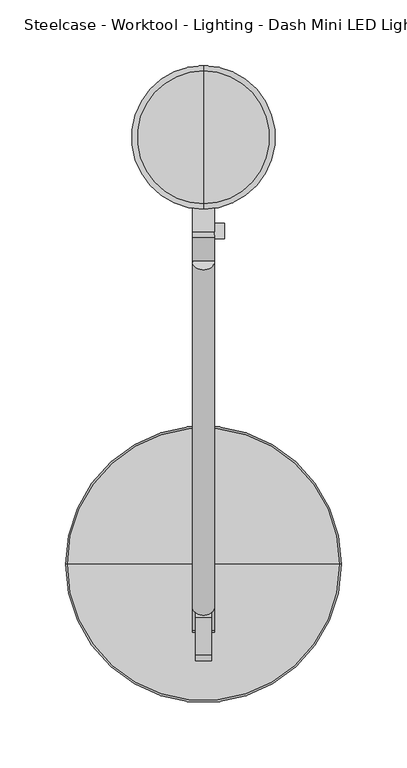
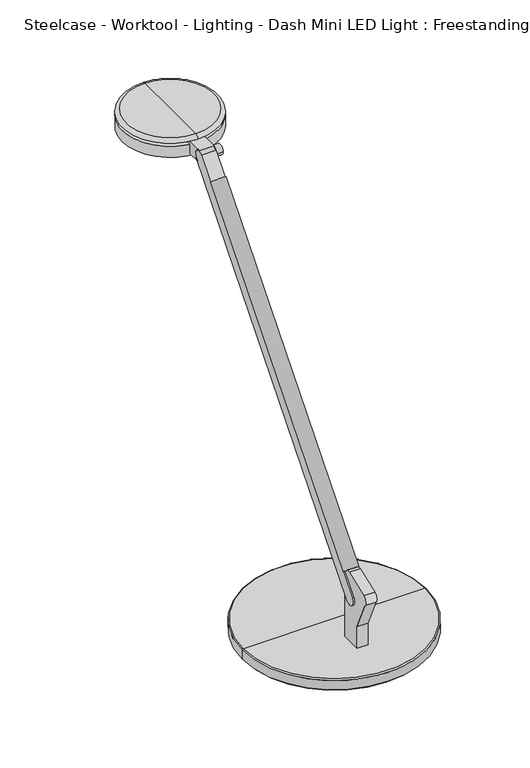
"""IFC4 building model written with IfcOpenShell, lengths in millimetres: furniture geometry, Steelcase - Worktool - Lighting - Dash Mini LED Light : Freestanding."""

import ifcopenshell
import ifcopenshell.guid

model = None  # the IFC model being written
_history = None  # IfcOwnerHistory: only IFC2X3 demands one
_inside = {}  # id of a spatial element -> (the spatial element, [elements in it])
_under = {}  # id of a project, library or spatial element -> (it, [spatial elements below it])
_declared = {}  # id of a project -> (the project, [libraries it declares])
_typed = {}  # id of a type object -> (the type object, [elements of that type])
_made_of = {}  # id of a material, layer set ... -> (it, [elements and type objects made of it])


def new_model(schema):
    """Start an empty IFC model of exactly this schema.

    Asked for "IFC4X3", IfcOpenShell would pick the latest addendum, in which some entities
    have other attributes; the version numbers below select the first issue.
    IFC2X3 requires an IfcOwnerHistory on every rooted entity: one is made here for all.
    """
    global model, _history
    if schema == "IFC4X3":
        model = ifcopenshell.file(schema_version=(4, 3, 0, 0))
    else:
        model = ifcopenshell.file(schema=schema)
    _inside.clear()
    _under.clear()
    _declared.clear()
    _typed.clear()
    _made_of.clear()
    _history = None
    if model.schema == "IFC2X3":
        org = make("IfcOrganization", Name="unknown")
        user = make(
            "IfcPersonAndOrganization",
            ThePerson=make("IfcPerson", FamilyName="unknown"),
            TheOrganization=org,
        )
        app = make(
            "IfcApplication",
            ApplicationDeveloper=org,
            Version="unknown",
            ApplicationFullName="unknown",
            ApplicationIdentifier="unknown",
        )
        _history = make(
            "IfcOwnerHistory",
            OwningUser=user,
            OwningApplication=app,
            ChangeAction="ADDED",
            CreationDate=0,
        )
    return model


def make(cls, **values):
    """One entity of the class cls with the attributes given. An attribute that is None is left unset."""
    return model.create_entity(
        cls, **{name: value for name, value in values.items() if value is not None}
    )


def rooted(cls, **values):
    """An entity with a GlobalId (a new one), such as an element, a storey or a relation."""
    return make(cls, GlobalId=ifcopenshell.guid.new(), OwnerHistory=_history, **values)


def si_unit(unit_type, name, prefix=None):
    """IfcSIUnit, for example si_unit("LENGTHUNIT", "METRE", prefix="MILLI")."""
    return make("IfcSIUnit", UnitType=unit_type, Prefix=prefix, Name=name)


def assignment(units):
    """IfcUnitAssignment: the units of a project."""
    return None if units is None else make("IfcUnitAssignment", Units=units)


def point(xyz):
    """IfcCartesianPoint."""
    return None if xyz is None else make("IfcCartesianPoint", Coordinates=xyz)


def direction(xyz):
    """IfcDirection."""
    return None if xyz is None else make("IfcDirection", DirectionRatios=xyz)


def frame(location, z_axis=None, x_axis=None):
    """IfcAxis2Placement3D, a coordinate frame: its origin and axes. An axis left out is left unset."""
    return make(
        "IfcAxis2Placement3D",
        Location=point(location),
        Axis=direction(z_axis),
        RefDirection=direction(x_axis),
    )


def frame_2d(location, x_axis=None):
    """IfcAxis2Placement2D, a coordinate frame in the plane: its origin and x axis."""
    return make(
        "IfcAxis2Placement2D", Location=point(location), RefDirection=direction(x_axis)
    )


def origin():
    """The frame at (0, 0, 0) with its axes left unset."""
    return frame((0.0, 0.0, 0.0))


def place(relative_to, where):
    """IfcLocalPlacement: puts the frame where relative to a parent placement (None: the world)."""
    return make(
        "IfcLocalPlacement", PlacementRelTo=relative_to, RelativePlacement=where
    )


def context(
    kind, dimensions, precision=None, world=None, true_north=None, identifier=None
):
    """IfcGeometricRepresentationContext, for example the 3D "Model" context."""
    return make(
        "IfcGeometricRepresentationContext",
        ContextIdentifier=identifier,
        ContextType=kind,
        CoordinateSpaceDimension=dimensions,
        Precision=precision,
        WorldCoordinateSystem=world,
        TrueNorth=true_north,
    )


def project(units=None, contexts=None):
    """IfcProject with its units and contexts."""
    return rooted(
        "IfcProject",
        Name="project",
        RepresentationContexts=contexts,
        UnitsInContext=assignment(units),
    )


def spatial(cls, under=None, at=None, **own):
    """A site, building, storey or space (cls), placed at a placement, below another one or the project."""
    s = rooted(cls, ObjectPlacement=at, **own)
    if under is not None:
        _under.setdefault(under.id(), (under, []))[1].append(s)
    return s


def polyline(points):
    """IfcPolyline through the points."""
    return make("IfcPolyline", Points=[point(p) for p in points])


def circle_curve(where, radius):
    """IfcCircle in the frame where."""
    return make("IfcCircle", Position=where, Radius=radius)


def ellipse_curve(where, semi_axis1, semi_axis2):
    """IfcEllipse in the frame where."""
    return make(
        "IfcEllipse", Position=where, SemiAxis1=semi_axis1, SemiAxis2=semi_axis2
    )


def trimmed(basis, trim1, trim2, sense, master):
    """IfcTrimmedCurve: the piece of a basis curve between two trims."""
    return make(
        "IfcTrimmedCurve",
        BasisCurve=basis,
        Trim1=trim1,
        Trim2=trim2,
        SenseAgreement=sense,
        MasterRepresentation=master,
    )


def segment(curve, same_sense, transition):
    """IfcCompositeCurveSegment."""
    return make(
        "IfcCompositeCurveSegment",
        Transition=transition,
        SameSense=same_sense,
        ParentCurve=curve,
    )


def composite_curve(segments, self_intersect=None):
    """IfcCompositeCurve: segments joined end to end."""
    return make("IfcCompositeCurve", Segments=segments, SelfIntersect=self_intersect)


def outline(outer, holes=None, kind="AREA"):
    """IfcArbitraryClosedProfileDef: a profile drawn as a closed curve; with holes, ...WithVoids."""
    if holes is None:
        return make("IfcArbitraryClosedProfileDef", ProfileType=kind, OuterCurve=outer)
    return make(
        "IfcArbitraryProfileDefWithVoids",
        ProfileType=kind,
        OuterCurve=outer,
        InnerCurves=holes,
    )


def extrude(swept, where, along, depth):
    """IfcExtrudedAreaSolid: the profile swept, set in the frame where, extruded along a direction by depth."""
    return make(
        "IfcExtrudedAreaSolid",
        SweptArea=swept,
        Position=where,
        ExtrudedDirection=direction(along),
        Depth=depth,
    )


def shape(context_of_items, identifier, shape_type, items):
    """IfcShapeRepresentation: the items that make up one representation, for example the "Body"."""
    return make(
        "IfcShapeRepresentation",
        ContextOfItems=context_of_items,
        RepresentationIdentifier=identifier,
        RepresentationType=shape_type,
        Items=items,
    )


def source(mapping_origin, context_of_items, identifier, shape_type, items):
    """IfcRepresentationMap: a shape defined once, which mapped items show again and again."""
    return make(
        "IfcRepresentationMap",
        MappingOrigin=mapping_origin,
        MappedRepresentation=shape(context_of_items, identifier, shape_type, items),
    )


def transform(
    local_origin,
    x_axis=None,
    y_axis=None,
    z_axis=None,
    scale=None,
    scale2=None,
    scale3=None,
    uniform=True,
):
    """IfcCartesianTransformationOperator3D, or its non-uniform kind. x_axis, y_axis, z_axis: its Axis1, 2, 3."""
    if uniform:
        return make(
            "IfcCartesianTransformationOperator3D",
            Axis1=direction(x_axis),
            Axis2=direction(y_axis),
            LocalOrigin=point(local_origin),
            Scale=scale,
            Axis3=direction(z_axis),
        )
    return make(
        "IfcCartesianTransformationOperator3DnonUniform",
        Axis1=direction(x_axis),
        Axis2=direction(y_axis),
        LocalOrigin=point(local_origin),
        Scale=scale,
        Axis3=direction(z_axis),
        Scale2=scale2,
        Scale3=scale3,
    )


def mapped(mapping_source, mapping_target):
    """IfcMappedItem: shows the shape of a source again, moved by a transform."""
    return make(
        "IfcMappedItem", MappingSource=mapping_source, MappingTarget=mapping_target
    )


def made_of(thing, what):
    """Note that an element or type object is made of a material, layer set ...; save() writes the relation."""
    if what is not None:
        _made_of.setdefault(what.id(), (what, []))[1].append(thing)
    return thing


def element(
    cls,
    number,
    at=None,
    inside=None,
    cuts=None,
    type_object=None,
    material=None,
    context=None,
    identifier="Body",
    shape_type=None,
    held_by="IfcProductDefinitionShape",
    body=None,
    shapes=None,
    **own,
):
    """One element of the class cls, such as IfcWall. Its Tag is "e" and its number.

    at: its placement. inside: the storey or other place that contains it. cuts: it is an
    opening in that element (IfcRelVoidsElement). A single representation is given by context,
    identifier, shape_type and body (its items); several are given by shapes. held_by: the class
    of the entity that holds the representations. save() writes the other relations.
    """
    e = rooted(cls, Tag="e%d" % number, ObjectPlacement=at, **own)
    if body is not None:
        shapes = [shape(context, identifier, shape_type, body)]
    if shapes is not None:
        e.Representation = make(held_by, Representations=shapes)
    if inside is not None:
        _inside.setdefault(inside.id(), (inside, []))[1].append(e)
    if cuts is not None:
        rooted(
            "IfcRelVoidsElement", RelatingBuildingElement=cuts, RelatedOpeningElement=e
        )
    if type_object is not None:
        _typed.setdefault(type_object.id(), (type_object, []))[1].append(e)
    return made_of(e, material)


def aggregate(whole, parts):
    """IfcRelAggregates: a whole, such as a stair, and the parts it consists of."""
    return rooted("IfcRelAggregates", RelatingObject=whole, RelatedObjects=parts)


def save(model, path):
    """Write the relations noted so far, then the file.

    IfcRelAggregates (storeys below a building ...), IfcRelContainedInSpatialStructure (elements
    in a storey), IfcRelDefinesByType, IfcRelAssociatesMaterial and IfcRelDeclares: one each for
    every whole, place, type object, material and project.
    """
    for whole, parts in _under.values():
        aggregate(whole, parts)
    for where, things in _inside.values():
        rooted(
            "IfcRelContainedInSpatialStructure",
            RelatedElements=things,
            RelatingStructure=where,
        )
    for kind, things in _typed.values():
        rooted("IfcRelDefinesByType", RelatedObjects=things, RelatingType=kind)
    for what, things in _made_of.values():
        rooted("IfcRelAssociatesMaterial", RelatedObjects=things, RelatingMaterial=what)
    for by, libraries in _declared.values():
        rooted("IfcRelDeclares", RelatingContext=by, RelatedDefinitions=libraries)
    model.write(path)


def plane_surface(at):
    """IfcPlane: the flat surface through the origin of the frame at, square to its z axis."""
    return make("IfcPlane", Position=at)


def cylinder_surface(at, radius):
    """IfcCylindricalSurface: all points at the distance radius from the z axis of the frame at."""
    return make("IfcCylindricalSurface", Position=at, Radius=radius)


def revolved_surface(curve, axis_point, axis_direction):
    """IfcSurfaceOfRevolution: the curve turned about the line through axis_point along axis_direction."""
    return make(
        "IfcSurfaceOfRevolution",
        SweptCurve=make("IfcArbitraryOpenProfileDef", ProfileType="CURVE", Curve=curve),
        AxisPosition=make("IfcAxis1Placement", Location=point(axis_point), Axis=direction(axis_direction)),
    )


def advanced_brep(points, edges, surfaces, faces):
    """IfcAdvancedBrep: a solid bounded by faces that lie on surfaces and meet in shared edges.

    An edge is (start, end): straight between two places in points (the first is 0);
    or (start, end, curve); or (start, end, curve, False) where it runs against its curve.
    A face is (place in surfaces, loops), or (place, loops, False) where it looks against
    its surface's normal. A loop lists edges by number (the first is 1), with a minus sign
    where the edge is run from its end to its start. The first loop is the outer one.
    """
    corners = [point(p) for p in points]
    vertices = [make("IfcVertexPoint", VertexGeometry=c) for c in corners]
    made = []
    for start, end, *more in edges:
        made.append(
            make(
                "IfcEdgeCurve",
                EdgeStart=vertices[start],
                EdgeEnd=vertices[end],
                EdgeGeometry=more[0] if more else make("IfcPolyline", Points=[corners[start], corners[end]]),
                SameSense=more[1] if len(more) > 1 else True,
            )
        )
    hull = []
    for where, loops, *sense in faces:
        bounds = []
        for j, loop in enumerate(loops):
            ring = [make("IfcOrientedEdge", EdgeElement=made[abs(k) - 1], Orientation=k > 0) for k in loop]
            bounds.append(
                make(
                    "IfcFaceOuterBound" if j == 0 else "IfcFaceBound",
                    Bound=make("IfcEdgeLoop", EdgeList=ring),
                    Orientation=True,
                )
            )
        hull.append(make("IfcAdvancedFace", Bounds=bounds, FaceSurface=surfaces[where], SameSense=sense[0] if sense else True))
    return make("IfcAdvancedBrep", Outer=make("IfcClosedShell", CfsFaces=hull))


def steelcase_worktool_lighting_dash_mini_led_light_freestanding_8dce2720(model_context):
    return source(origin(), model_context, "Body", "SolidModel", [
        extrude(outline(composite_curve([segment(trimmed(circle_curve(frame_2d((0.0, 161.2861314)), 8.509), [point((8.509, 161.2861314))], [point((-8.509, 161.2861314))], False, "CARTESIAN"), True, "CONTINUOUS"), segment(polyline([(-8.509, 161.2861314), (8.509, 161.2861314)]), True, "CONTINUOUS")], self_intersect=False)), frame((0.0, -59.9275977, 934.0367561), z_axis=(0.0, 0.6453157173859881, 0.7639159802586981), x_axis=(1.0, 0.0, 0.0)), (0.0, 0.0, 1.0), 407.9752226),
        extrude(outline(composite_curve([segment(polyline([(1165.3599936, 383.6426805), (1165.3599936, 349.1496158)]), True, "CONTINUOUS"), segment(trimmed(circle_curve(frame_2d((1158.6105852, 349.1496158)), 6.7494084), [point((1165.3599936, 349.1496158))], [point((1154.3820582, 354.4102311))], True, "CARTESIAN"), True, "CONTINUOUS"), segment(polyline([(1154.3820582, 354.4102311), (1151.5508717, 352.0202702), (1151.5508717, 366.3659959), (1162.4056, 366.3659959), (1162.4056, 381.1636499), (1165.3599936, 383.6426805)]), True, "CONTINUOUS")], self_intersect=False)), frame((8.509, 0.0, 0.0), z_axis=(-1.0, 0.0, 0.0), x_axis=(0.0, 0.0, 1.0)), (0.0, 0.0, 1.0), 17.018),
        extrude(outline(composite_curve([segment(trimmed(circle_curve(frame_2d((349.5772033, 1158.8861373)), 5.8982953), [point((343.678908, 1158.8861373))], [point((355.4754986, 1158.8861373))], False, "CARTESIAN"), True, "CONTINUOUS"), segment(trimmed(circle_curve(frame_2d((349.5772033, 1158.8861373)), 5.8982953), [point((355.4754986, 1158.8861373))], [point((343.678908, 1158.8861373))], False, "CARTESIAN"), True, "CONTINUOUS")], self_intersect=False)), frame((8.509, 0.0, 0.0), z_axis=(1.0, 0.0, 0.0), x_axis=(0.0, 1.0, 0.0)), (0.0, 0.0, 1.0), 7.5184),
        extrude(outline(composite_curve([segment(polyline([(63.6335559, 826.008), (63.6335559, 750.951), (39.5289559, 750.951), (39.5289559, 777.008319), (24.0322898, 811.8144009)]), True, "CONTINUOUS"), segment(trimmed(circle_curve(frame_2d((28.6602337, 816.3670075)), 6.491848), [point((24.0322898, 811.8144009))], [point((26.3337634, 822.4276697))], False, "CARTESIAN"), True, "CONTINUOUS"), segment(polyline([(26.3337634, 822.4276697), (54.9477675, 833.4115568)]), True, "CONTINUOUS"), segment(trimmed(circle_curve(frame_2d((57.2760289, 827.3462287)), 6.4968459), [point((54.9477675, 833.4115568))], [point((63.6335559, 826.008))], False, "CARTESIAN"), True, "CONTINUOUS")], self_intersect=False)), frame((-6.223, 0.0, 0.0), z_axis=(1.0, 0.0, 0.0), x_axis=(0.0, 1.0, 0.0)), (0.0, 0.0, 1.0), 12.446),
        advanced_brep(
        [(0.0, 95.563788, 750.9476331), (-103.8479, 95.563788, 750.9476331), (103.8479, 95.563788, 750.9476331), (-93.0792702, 95.563788, 731.9816908), (0.0, 95.563788, 731.9816908), (93.0792702, 95.563788, 731.9816908), (-93.0792702, 95.563788, 732.8852565), (93.0792702, 95.563788, 732.8852565), (-95.8939876, 95.563788, 732.8852565), (95.8939876, 95.563788, 732.8852565), (-102.4300117, 95.563788, 735.7952819), (102.4300117, 95.563788, 735.7952819), (-102.4300117, 95.563788, 738.6286331), (102.4300117, 95.563788, 738.6286331), (-105.3308643, 95.563788, 738.6286331), (105.3308643, 95.563788, 738.6286331), (-105.3308643, 95.563788, 749.4646687), (105.3308643, 95.563788, 749.4646687)],
        [
            (0, 1),
            (1, 2, circle_curve(frame((0.0, 95.563788, 750.9476331), z_axis=(0.0, 0.0, 1.0), x_axis=(1.0, 0.0, 0.0)), 103.8479)),
            (2, 0),
            (2, 1, circle_curve(frame((0.0, 95.563788, 750.9476331), z_axis=(0.0, 0.0, 1.0), x_axis=(1.0, 0.0, 0.0)), 103.8479)),
            (3, 4),
            (4, 5),
            (5, 3, circle_curve(frame((0.0, 95.563788, 731.9816908), z_axis=(0.0, 0.0, -1.0), x_axis=(1.0, 0.0, 0.0)), 93.0792702)),
            (3, 5, circle_curve(frame((0.0, 95.563788, 731.9816908), z_axis=(0.0, 0.0, -1.0), x_axis=(1.0, 0.0, 0.0)), 93.0792702)),
            (6, 3),
            (5, 7),
            (7, 6, circle_curve(frame((0.0, 95.563788, 732.8852565), z_axis=(0.0, 0.0, -1.0), x_axis=(1.0, 0.0, 0.0)), 93.0792702)),
            (6, 7, circle_curve(frame((0.0, 95.563788, 732.8852565), z_axis=(0.0, 0.0, -1.0), x_axis=(1.0, 0.0, 0.0)), 93.0792702)),
            (8, 6),
            (7, 9),
            (9, 8, circle_curve(frame((0.0, 95.563788, 732.8852565), z_axis=(0.0, 0.0, -1.0), x_axis=(1.0, 0.0, 0.0)), 95.8939876)),
            (8, 9, circle_curve(frame((0.0, 95.563788, 732.8852565), z_axis=(0.0, 0.0, -1.0), x_axis=(1.0, 0.0, 0.0)), 95.8939876)),
            (10, 8),
            (9, 11),
            (11, 10, circle_curve(frame((0.0, 95.563788, 735.7952819), z_axis=(0.0, 0.0, -1.0), x_axis=(1.0, 0.0, 0.0)), 102.4300117)),
            (10, 11, circle_curve(frame((0.0, 95.563788, 735.7952819), z_axis=(0.0, 0.0, -1.0), x_axis=(1.0, 0.0, 0.0)), 102.4300117)),
            (12, 10),
            (11, 13),
            (13, 12, circle_curve(frame((0.0, 95.563788, 738.6286331), z_axis=(0.0, 0.0, -1.0), x_axis=(1.0, 0.0, 0.0)), 102.4300117)),
            (12, 13, circle_curve(frame((0.0, 95.563788, 738.6286331), z_axis=(0.0, 0.0, -1.0), x_axis=(1.0, 0.0, 0.0)), 102.4300117)),
            (14, 12),
            (13, 15),
            (15, 14, circle_curve(frame((0.0, 95.563788, 738.6286331), z_axis=(0.0, 0.0, -1.0), x_axis=(1.0, 0.0, 0.0)), 105.3308643)),
            (14, 15, circle_curve(frame((0.0, 95.563788, 738.6286331), z_axis=(0.0, 0.0, -1.0), x_axis=(1.0, 0.0, 0.0)), 105.3308643)),
            (16, 14),
            (15, 17),
            (17, 16, circle_curve(frame((0.0, 95.563788, 749.4646687), z_axis=(0.0, 0.0, -1.0), x_axis=(1.0, 0.0, 0.0)), 105.3308643)),
            (16, 17, circle_curve(frame((0.0, 95.563788, 749.4646687), z_axis=(0.0, 0.0, -1.0), x_axis=(1.0, 0.0, 0.0)), 105.3308643)),
            (1, 16, circle_curve(frame((-103.8479, 95.563788, 749.4646687), z_axis=(0.0, -1.0, 0.0), x_axis=(-1.0, 0.0, 0.0)), 1.4829643)),
            (17, 2, circle_curve(frame((103.8479, 95.563788, 749.4646687), z_axis=(0.0, -1.0, 0.0), x_axis=(1.0, 0.0, 0.0)), 1.4829643)),
        ],
        [
            plane_surface(frame((0.0, 95.563788, 750.9476331), z_axis=(0.0, 0.0, 1.0), x_axis=(1.0, 0.0, 0.0))),
            plane_surface(frame((0.0, 95.563788, 731.9816908), z_axis=(0.0, 0.0, -1.0), x_axis=(1.0, 0.0, 0.0))),
            cylinder_surface(frame((0.0, 95.563788, 757.2976331), z_axis=(0.0, 0.0, 1.0), x_axis=(1.0, 0.0, 0.0)), 93.0792702),
            plane_surface(frame((0.0, 95.563788, 732.8852565), z_axis=(0.0, 0.0, -1.0), x_axis=(1.0, 0.0, 0.0))),
            revolved_surface(polyline([(95.8939876, 95.563788, 732.8852565), (102.4300117, 95.563788, 735.7952819)]), (0.0, 95.563788, 757.2976331), (0.0, 0.0, 1.0)),
            cylinder_surface(frame((0.0, 95.563788, 757.2976331), z_axis=(0.0, 0.0, 1.0), x_axis=(1.0, 0.0, 0.0)), 102.4300117),
            plane_surface(frame((0.0, 95.563788, 738.6286331), z_axis=(0.0, 0.0, -1.0), x_axis=(1.0, 0.0, 0.0))),
            cylinder_surface(frame((0.0, 95.563788, 757.2976331), z_axis=(0.0, 0.0, 1.0), x_axis=(1.0, 0.0, 0.0)), 105.3308643),
            revolved_surface(trimmed(ellipse_curve(frame((103.8479, 95.563788, 749.4646687), z_axis=(0.0, -1.0, 0.0), x_axis=(1.0, 0.0, 0.0)), 1.4829643, 1.4829643), [point((105.3308643, 95.563788, 749.4646687))], [point((103.8479, 95.563788, 750.9476331))], True, "CARTESIAN"), (0.0, 95.563788, 757.2976331), (0.0, 0.0, 1.0)),
        ],
        [
            (0, [[1, 2, 3]]),
            (0, [[-3, 4, -1]]),
            (1, [[5, 6, 7]]),
            (1, [[-6, -5, 8]]),
            (2, [[9, -7, 10, 11]]),
            (2, [[-10, -8, -9, 12]]),
            (3, [[13, -11, 14, 15]]),
            (3, [[-14, -12, -13, 16]]),
            (4, [[17, -15, 18, 19]]),
            (4, [[-18, -16, -17, 20]]),
            (5, [[21, -19, 22, 23]]),
            (5, [[-22, -20, -21, 24]]),
            (6, [[25, -23, 26, 27]]),
            (6, [[-26, -24, -25, 28]]),
            (7, [[29, -27, 30, 31]]),
            (7, [[-30, -28, -29, 32]]),
            (8, [[33, -31, 34, -2]]),
            (8, [[-34, -32, -33, -4]]),
        ],
    ),
        advanced_brep(
        [(0.0, 366.3659959, 1166.2156), (0.0, 370.4220506, 1170.0256), (0.0, 471.7839412, 1170.0256), (0.0, 475.8399959, 1166.2156), (0.0, 384.354515, 1166.2156), (0.0, 457.8514768, 1166.2156), (0.0, 381.6867242, 1162.4056), (0.0, 460.5192676, 1162.4056), (0.0, 366.3659959, 1162.4056), (0.0, 475.8399959, 1162.4056), (0.0, 366.3659959, 1149.0706), (0.0, 475.8399959, 1149.0706), (0.0, 421.1029959, 1149.0706), (0.0, 421.1029959, 1170.0256)],
        [
            (0, 1, circle_curve(frame((0.0, 370.4220506, 1165.9616), z_axis=(-1.0, 0.0, 0.0), x_axis=(0.0, -1.0, 0.0)), 4.064)),
            (1, 2, circle_curve(frame((0.0, 421.1029959, 1170.0256), z_axis=(0.0, 0.0, -1.0), x_axis=(0.0, 1.0, 0.0)), 50.6809453)),
            (2, 3, circle_curve(frame((0.0, 471.7839412, 1165.9616), z_axis=(-1.0, 0.0, 0.0), x_axis=(0.0, 1.0, 0.0)), 4.064)),
            (3, 0, circle_curve(frame((0.0, 421.1029959, 1166.2156), z_axis=(0.0, 0.0, 1.0), x_axis=(0.0, 1.0, 0.0)), 54.737)),
            (2, 1, circle_curve(frame((0.0, 421.1029959, 1170.0256), z_axis=(0.0, 0.0, -1.0), x_axis=(0.0, 1.0, 0.0)), 50.6809453)),
            (0, 3, circle_curve(frame((0.0, 421.1029959, 1166.2156), z_axis=(0.0, 0.0, 1.0), x_axis=(0.0, 1.0, 0.0)), 54.737)),
            (4, 0),
            (3, 5),
            (5, 4, circle_curve(frame((0.0, 421.1029959, 1166.2156), z_axis=(0.0, 0.0, 1.0), x_axis=(0.0, 1.0, 0.0)), 36.7484809)),
            (4, 5, circle_curve(frame((0.0, 421.1029959, 1166.2156), z_axis=(0.0, 0.0, 1.0), x_axis=(0.0, 1.0, 0.0)), 36.7484809)),
            (6, 4),
            (5, 7),
            (7, 6, circle_curve(frame((0.0, 421.1029959, 1162.4056), z_axis=(0.0, 0.0, 1.0), x_axis=(0.0, 1.0, 0.0)), 39.4162717)),
            (6, 7, circle_curve(frame((0.0, 421.1029959, 1162.4056), z_axis=(0.0, 0.0, 1.0), x_axis=(0.0, 1.0, 0.0)), 39.4162717)),
            (8, 6),
            (7, 9),
            (9, 8, circle_curve(frame((0.0, 421.1029959, 1162.4056), z_axis=(0.0, 0.0, 1.0), x_axis=(0.0, 1.0, 0.0)), 54.737)),
            (8, 9, circle_curve(frame((0.0, 421.1029959, 1162.4056), z_axis=(0.0, 0.0, 1.0), x_axis=(0.0, 1.0, 0.0)), 54.737)),
            (10, 8),
            (9, 11),
            (11, 10, circle_curve(frame((0.0, 421.1029959, 1149.0706), z_axis=(0.0, 0.0, 1.0), x_axis=(0.0, 1.0, 0.0)), 54.737)),
            (10, 11, circle_curve(frame((0.0, 421.1029959, 1149.0706), z_axis=(0.0, 0.0, 1.0), x_axis=(0.0, 1.0, 0.0)), 54.737)),
            (12, 10),
            (11, 12),
            (1, 13),
            (13, 2),
        ],
        [
            revolved_surface(trimmed(ellipse_curve(frame((0.0, 471.7839412, 1165.9616), z_axis=(-1.0, 0.0, 0.0), x_axis=(0.0, 1.0, 0.0)), 4.064, 4.064), [point((0.0, 471.7839412, 1170.0256))], [point((0.0, 475.8399959, 1166.2156))], True, "CARTESIAN"), (0.0, 421.1029959, 1170.0256), (0.0, 0.0, -1.0)),
            plane_surface(frame((0.0, 421.1029959, 1166.2156), z_axis=(0.0, 0.0, -1.0), x_axis=(0.0, 1.0, 0.0))),
            revolved_surface(polyline([(0.0, 457.8514768, 1166.2156), (0.0, 460.5192676, 1162.4056)]), (0.0, 421.1029959, 1170.0256), (0.0, 0.0, -1.0)),
            plane_surface(frame((0.0, 421.1029959, 1162.4056), z_axis=(0.0, 0.0, 1.0), x_axis=(0.0, 1.0, 0.0))),
            cylinder_surface(frame((0.0, 421.1029959, 1170.0256), z_axis=(0.0, 0.0, -1.0), x_axis=(0.0, 1.0, 0.0)), 54.737),
            plane_surface(frame((0.0, 421.1029959, 1149.0706), z_axis=(0.0, 0.0, -1.0), x_axis=(0.0, 1.0, 0.0))),
            plane_surface(frame((0.0, 421.1029959, 1170.0256), z_axis=(0.0, 0.0, 1.0), x_axis=(0.0, 1.0, 0.0))),
        ],
        [
            (0, [[1, 2, 3, 4]]),
            (0, [[-3, 5, -1, 6]]),
            (1, [[7, -4, 8, 9]]),
            (1, [[-8, -6, -7, 10]]),
            (2, [[11, -9, 12, 13]]),
            (2, [[-12, -10, -11, 14]]),
            (3, [[15, -13, 16, 17]]),
            (3, [[-16, -14, -15, 18]]),
            (4, [[19, -17, 20, 21]]),
            (4, [[-20, -18, -19, 22]]),
            (5, [[23, -21, 24]]),
            (5, [[-24, -22, -23]]),
            (6, [[25, 26, -2]]),
            (6, [[-26, -25, -5]]),
        ],
    ),
        extrude(outline(composite_curve([segment(polyline([(45.3086429, 808.6803092), (344.4466482, 1162.7958164)]), True, "CONTINUOUS"), segment(trimmed(circle_curve(frame_2d((349.4277131, 1158.5880769)), 6.5204355), [point((344.4466482, 1162.7958164))], [point((354.4102311, 1154.3820582))], False, "CARTESIAN"), True, "CONTINUOUS"), segment(polyline([(354.4102311, 1154.3820582), (55.394567, 800.16324)]), True, "CONTINUOUS"), segment(trimmed(circle_curve(frame_2d((50.3508694, 804.4209036)), 6.6004988), [point((55.394567, 800.16324))], [point((45.3086429, 808.6803092))], False, "CARTESIAN"), True, "CONTINUOUS")], self_intersect=False)), frame((-8.509, 0.0, 0.0), z_axis=(1.0, 0.0, 0.0), x_axis=(0.0, 1.0, 0.0)), (0.0, 0.0, 1.0), 17.018),
    ])


if __name__ == "__main__":
    model = new_model("IFC4")
    model_context = context("Model", 3, world=origin())
    ifc_project = project(units=[si_unit("LENGTHUNIT", "METRE", prefix="MILLI")], contexts=[model_context])
    site = spatial("IfcSite", under=ifc_project)
    building = spatial("IfcBuilding", under=site)
    placement = place(None, origin())
    steelcase_worktool_lighting_dash_mini_led_light_freestanding_shape = steelcase_worktool_lighting_dash_mini_led_light_freestanding_8dce2720(model_context)
    element("IfcFurniture", 1, ObjectType="Steelcase - Worktool - Lighting - Dash Mini LED Light : Freestanding", at=placement, inside=building, context=model_context, shape_type="MappedRepresentation", body=[
        mapped(steelcase_worktool_lighting_dash_mini_led_light_freestanding_shape, transform((0.0, 0.0, 0.0), x_axis=(1.0, 0.0, 0.0), y_axis=(0.0, 1.0, 0.0), z_axis=(0.0, 0.0, 1.0))),
    ])
    save(model, "model.ifc")
